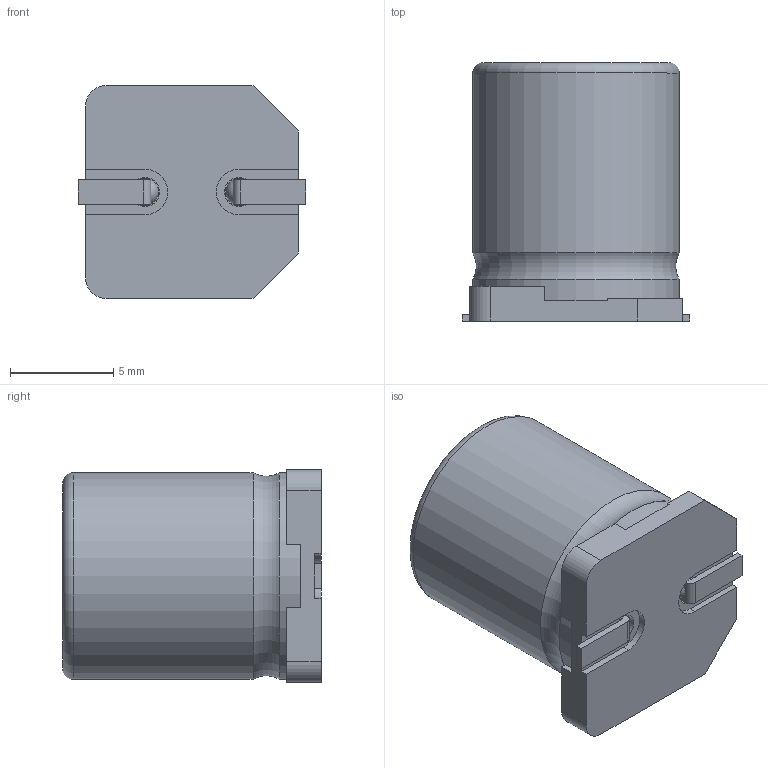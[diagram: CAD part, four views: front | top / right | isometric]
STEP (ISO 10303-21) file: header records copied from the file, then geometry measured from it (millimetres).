
FILE_DESCRIPTION(/* description */ (''),/* implementation_level */ '2;1');
FILE_NAME(/* name */ '\\D-crew-srv\ボリューム (e)\DWG\03 ミヤハラ\03 パナソニック\2018\01 コンデンサ 3D化\01 3D\標準品Φ10 SIZE CODE G12.stp',/* time_stamp */ '2018-06-21T10:18:40+09:00',/* author */ ('HIDE'),/* organization */ (''),/* preprocessor_version */ 'ST-DEVELOPER v16.13',/* originating_system */ 'Autodesk Inventor 2018',/* authorisation */ '');
FILE_SCHEMA (('AUTOMOTIVE_DESIGN { 1 0 10303 214 3 1 1 }'));
Length unit declared in the file: millimetre
Products named in the file (4): 標準品Φ10 SIZE CODE G12; 標準品ケースΦ10x11.52L SIDE CODE
 G12; 標準品座版Φ10 SIZE CODE G12; 標準品リード線Φ10 SIZE CODE G1
2
Assembly tree (4 placements, depth 2):
  標準品Φ10 SIZE CODE G12
    標準品ケースΦ10x11.52L SIDE CODE
 G12
    標準品座版Φ10 SIZE CODE G12
    標準品リード線Φ10 SIZE CODE G1
2  x2
Bounding box: 11 x 12.5 x 10.3 mm (x, y, z)
Volume: 1005.7 mm3; surface area: 816.7 mm2
Topology: 4 solids, 4 shells, 75 faces, 195 edges, 129 vertices
Faces by surface type: plane 53, cylinder 16, sphere 4, torus 2
Full cylindrical faces by diameter (mm): 1.3 x2, 1.4 x2, 10 x2
Entity records: 2030 total; most frequent: DIRECTION 325, CARTESIAN_POINT 324, ORIENTED_EDGE 302, EDGE_CURVE 151, LINE 115, VECTOR 115, AXIS2_PLACEMENT_3D 105, VERTEX_POINT 104
